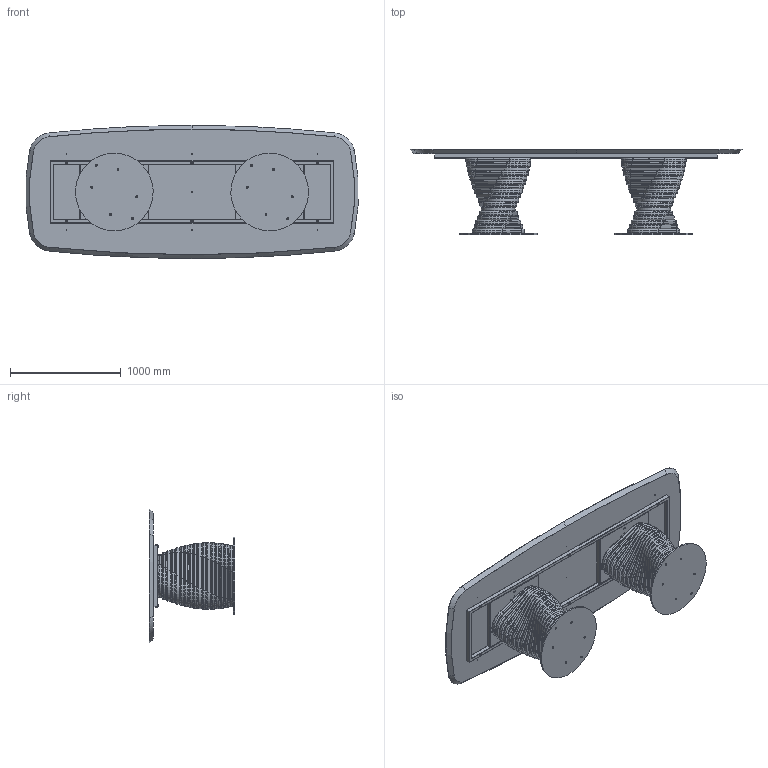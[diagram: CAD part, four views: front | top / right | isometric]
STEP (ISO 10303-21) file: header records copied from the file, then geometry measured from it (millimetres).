
FILE_DESCRIPTION (( 'STEP AP203' ), '1' );
FILE_NAME ('RO44W.STEP', '2024-08-07T13:21:07', ( '' ), ( '' ), 'SwSTEP 2.0', 'SolidWorks 2022', '' );
FILE_SCHEMA (( 'CONFIG_CONTROL_DESIGN' ));
Length unit declared in the file: millimetre
Products named in the file (15): ROBX00000MED-00-Anello rotolo MEDIO_Default<A macchina>; TTAV03_01-06-RING TUBO TELAIO UNIVERSALE X TAVOLI 300-340cm; RO44W; M8xXXmm_M8x55mm; COLLO TELAIO UNIVERSALE TTAV03 CON FERRAMENTA_MTG TOP LEGNO-MARMO-KING; ROBX00000INF-00-Anello rotolo INFERIORE_Default<A macchina>; ROB200000-00-PIASTRA BASE_Ø70cm; W4XCMXX-00-Piani Sagomati legno_3000 x 1200; ROBX00000SUP-00-Anello rotolo SUPERIORE_Default<A macchina>; ROBX00000-00-ROTOLO BASE 17 ANELLI; TTAV03_02-06-VASSOIO IRRIGIDIMENTO TELAIO UNIVERSALE RETTANGOLARE; M8xXXmm_hex_M8X20mm; TTAV03-06-TELAIO UNIVERSALE X TAVOLI 300-340cm; rondella M8_8X24; M8xXXmm_M8x20mm
Assembly tree (67 placements, depth 4):
  RO44W
    ROB200000-00-PIASTRA BASE_Ø70cm  x2
    COLLO TELAIO UNIVERSALE TTAV03 CON FERRAMENTA_MTG TOP LEGNO-MARMO-KING
      TTAV03-06-TELAIO UNIVERSALE X TAVOLI 300-340cm
        TTAV03_01-06-RING TUBO TELAIO UNIVERSALE X TAVOLI 300-340cm
        TTAV03_02-06-VASSOIO IRRIGIDIMENTO TELAIO UNIVERSALE RETTANGOLARE  x2
      rondella M8_8X24  x6
      M8xXXmm_M8x55mm  x6
    ROBX00000-00-ROTOLO BASE 17 ANELLI  x2
      ROBX00000INF-00-Anello rotolo INFERIORE_Default<A macchina>
      ROBX00000MED-00-Anello rotolo MEDIO_Default<A macchina>
      ROBX00000SUP-00-Anello rotolo SUPERIORE_Default<A macchina>
    M8xXXmm_hex_M8X20mm  x12
    rondella M8_8X24  x8
    M8xXXmm_M8x20mm  x8
    W4XCMXX-00-Piani Sagomati legno_3000 x 1200
Bounding box: 2991.72 x 770 x 1200 mm (x, y, z)
Volume: 146514560.9 mm3; surface area: 21405634.1 mm2
Topology: 182 solids, 182 shells, 3111 faces, 7322 edges, 4504 vertices
Faces by surface type: plane 1230, cylinder 1055, torus 473, cone 345, sphere 8
Entity records: 24367 total; most frequent: CARTESIAN_POINT 5251, DIRECTION 3572, ORIENTED_EDGE 3180, EDGE_CURVE 1590, AXIS2_PLACEMENT_3D 1370, VERTEX_POINT 987, VECTOR 832, LINE 832
